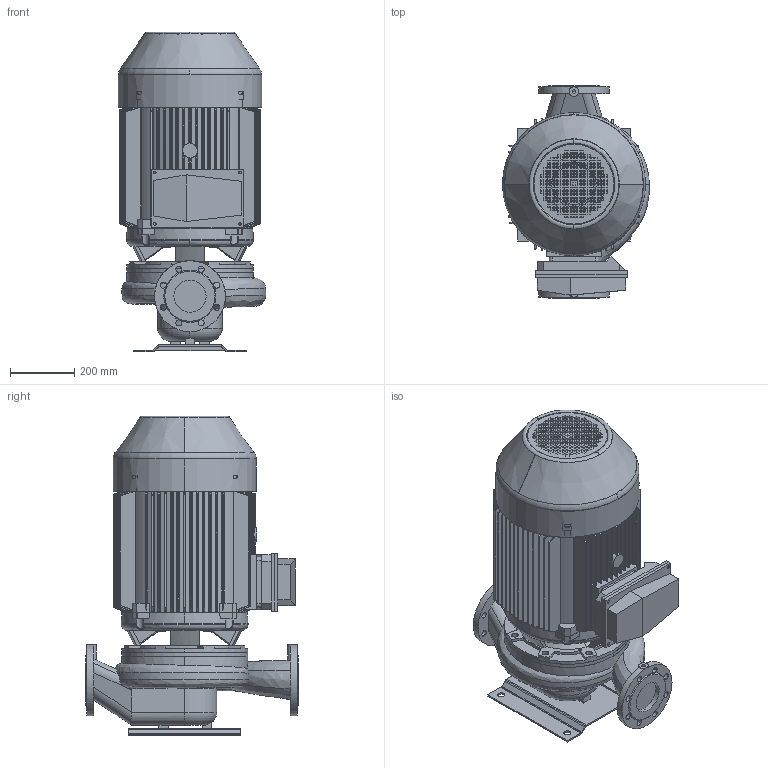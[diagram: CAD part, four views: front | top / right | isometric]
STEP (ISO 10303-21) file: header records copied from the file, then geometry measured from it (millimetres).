
FILE_DESCRIPTION(('STEP AP214'),'1');
FILE_NAME('export.stp','2018-05-29T07:49:57',(' '),(' '),'Spatial InterOp 3D',' ',' ');
FILE_SCHEMA(('AUTOMOTIVE_DESIGN { 1 0 10303 214 1 1 1 1 }'));
Length unit declared in the file: millimetre
Products named in the file (13): W_L100S2450-KP225; V_TLL100SAL1202; V_PPL100S; P100496; P100495; P100342; V_MKP225-H1-F32; R200066; R200624; R201408; R200325; R200138; R200137
Assembly tree (13 placements, depth 3):
  W_L100S2450-KP225
    V_TLL100SAL1202
    V_PPL100S
    P100496
      P100495  x2
      P100342
    V_MKP225-H1-F32
      R200066
      R200624
      R201408
      R200325
      R200138
      R200137
Bounding box: 457.5 x 660 x 993.5 mm (x, y, z)
Volume: 41855627.3 mm3; surface area: 5483851.8 mm2
Topology: 11 solids, 11 shells, 2670 faces, 7748 edges, 5134 vertices
Faces by surface type: plane 1661, cylinder 727, cone 192, torus 52, bspline 38
Entity records: 154493 total; most frequent: CARTESIAN_POINT 31546, ORIENTED_EDGE 15452, DIRECTION 13045, STYLED_ITEM 8883, PRESENTATION_STYLE_ASSIGNMENT 8883, COLOUR_RGB 8883, EDGE_CURVE 7726, CURVE_STYLE 6209
